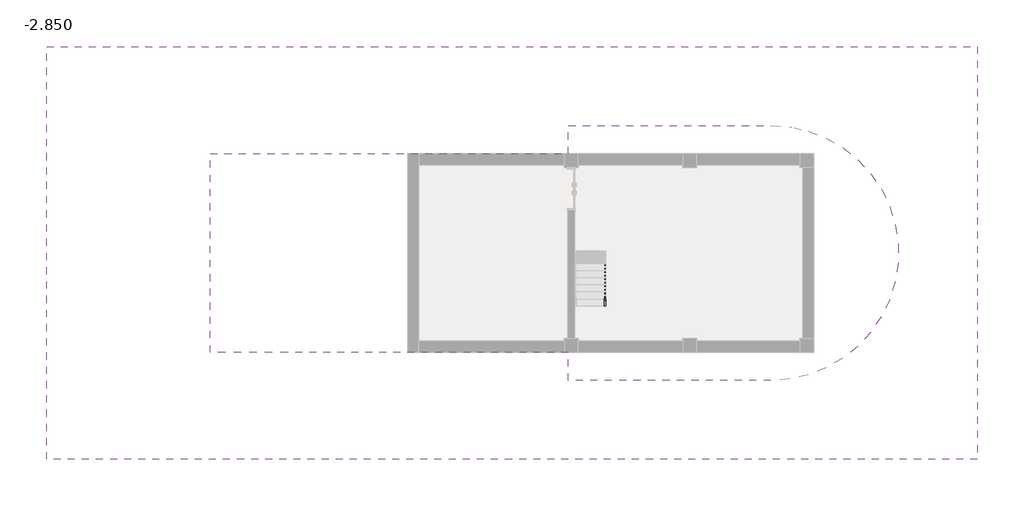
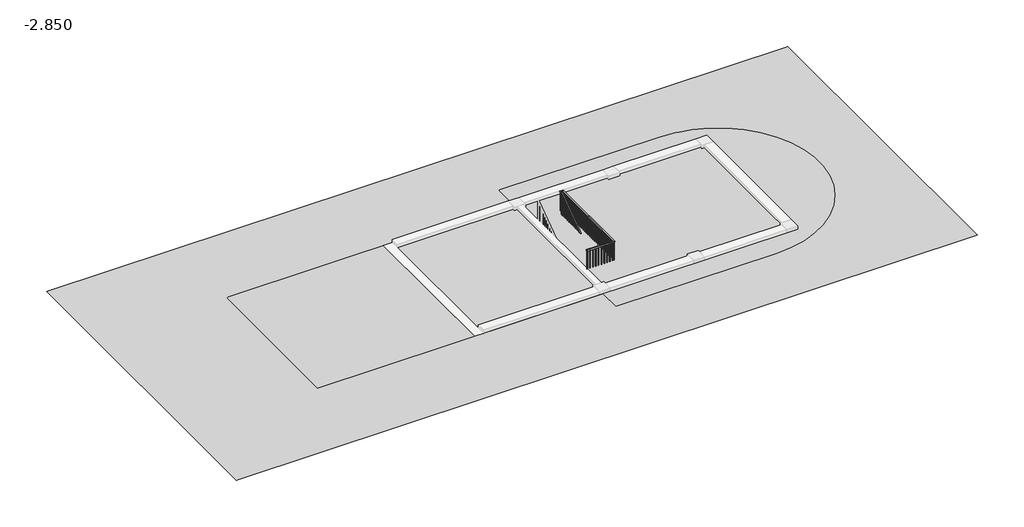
# One storey, part 2 of 2: 2 proxies, 2 railings.
"""IFC4 building model written with IfcOpenShell, lengths in millimetres."""

from ifc_helpers import new_model, si_unit, frame, origin, origin_with_axes, place, context, project, spatial, polyline, outline, extrude, faceted_brep, triangles, element, save

model = new_model("IFC4")

# Units and contexts
model_context = context("Model", 3, world=origin())
ifc_project = project(units=[si_unit("LENGTHUNIT", "METRE", prefix="MILLI")], contexts=[model_context])

# Site, building, storey
site = spatial("IfcSite", under=ifc_project)
building = spatial("IfcBuilding", under=site)
storey = spatial("IfcBuildingStorey", under=building, Name="-2.850", Elevation=-2850.0)

# Proxies
placement = place(None, origin())
element("IfcBuildingElementProxy", 1, Name="Building Element Proxy", at=placement, inside=storey, context=model_context, shape_type="Tessellation", body=[
    triangles([(-55025.7389648, -29780.700824, -150.0000011), (-55025.7389648, -44430.7019531, -150.0000011), (-22025.736969, -44430.7019531, -150.0000011), (-22025.736969, -29780.700824, -150.0000011), (-49225.739502, -33580.7014343, -150.0000011), (-36525.7379517, -33580.7014343, -150.0000011), (-36525.7379517, -32580.7020081, -150.0000011), (-29350.7386963, -32580.7020081, -150.0000011), (-28676.3217224, -32631.2431091, -150.0000011), (-28524.7030701, -32665.8479736, -150.0000011), (-28016.9712708, -32781.7339233, -150.0000011), (-27387.4143494, -33028.8165161, -150.0000011), (-26801.7152161, -33366.9702942, -150.0000011), (-26272.9567932, -33788.6422302, -150.0000011), (-25812.9499878, -34284.4096436, -150.0000011), (-25431.9732422, -34843.2011169, -150.0000011), (-25138.5330139, -35452.5336914, -150.0000011), (-24939.1893677, -36098.7942444, -150.0000011), (-24838.3908691, -36767.5487732, -150.0000011), (-24838.3908691, -37443.8563293, -150.0000011), (-24939.1893677, -38112.6085327, -150.0000011), (-25138.5330139, -38758.8690857, -150.0000011), (-25431.9732422, -39368.2016602, -150.0000011), (-25812.9499878, -39926.9908081, -150.0000011), (-26272.9567932, -40422.7605469, -150.0000011), (-26801.7152161, -40844.4324829, -150.0000011), (-27387.4143494, -41182.5839355, -150.0000011), (-28016.9712708, -41429.6665283, -150.0000011), (-28676.3217224, -41580.159668, -150.0000011), (-29350.7386963, -41630.700769, -150.0000011), (-36525.7379517, -41630.700769, -150.0000011), (-36525.7379517, -40630.7013428, -150.0000011), (-46466.0102783, -40630.7013428, -150.0000011), (-49225.739502, -40630.7013428, -150.0000011)], [[2, 31, 33], [30, 31, 3], [33, 34, 2], [33, 31, 32], [2, 34, 5], [3, 29, 30], [27, 28, 3], [29, 3, 28], [3, 31, 2], [7, 1, 5], [5, 1, 2], [5, 6, 7], [10, 11, 4], [4, 7, 8], [1, 7, 4], [10, 4, 9], [4, 8, 9], [25, 26, 3], [23, 24, 3], [25, 3, 24], [22, 3, 21], [3, 22, 23], [20, 21, 3], [3, 19, 20], [26, 27, 3], [14, 15, 4], [12, 13, 4], [14, 4, 13], [18, 19, 4], [16, 17, 4], [4, 17, 18], [16, 4, 15], [19, 3, 4], [12, 4, 11]], closed=False),
])
element("IfcBuildingElementProxy", 2, Name="Building Element Proxy", at=placement, inside=storey, context=model_context, shape_type="Tessellation", body=[
    triangles([(-49225.739502, -33580.7014343, -150.0000011), (-49225.739502, -40630.7013428, -150.0000011), (-46466.0102783, -40630.7013428, -150.0000011), (-36525.7379517, -40630.7013428, -150.0000011), (-36525.7379517, -41630.700769, -150.0000011), (-29350.7386963, -41630.700769, -150.0000011), (-28676.3217224, -41580.159668, -150.0000011), (-28016.9712708, -41429.6665283, -150.0000011), (-27387.4143494, -41182.5839355, -150.0000011), (-26801.7152161, -40844.4324829, -150.0000011), (-26272.9567932, -40422.7605469, -150.0000011), (-25812.9499878, -39926.9908081, -150.0000011), (-25431.9732422, -39368.2016602, -150.0000011), (-25138.5330139, -38758.8690857, -150.0000011), (-24939.1893677, -38112.6085327, -150.0000011), (-24838.3908691, -37443.8563293, -150.0000011), (-24838.3908691, -36767.5487732, -150.0000011), (-24939.1893677, -36098.7942444, -150.0000011), (-25138.5330139, -35452.5336914, -150.0000011), (-25431.9732422, -34843.2011169, -150.0000011), (-25812.9499878, -34284.4096436, -150.0000011), (-26272.9567932, -33788.6422302, -150.0000011), (-26801.7152161, -33366.9702942, -150.0000011), (-27387.4143494, -33028.8165161, -150.0000011), (-28016.9712708, -32781.7339233, -150.0000011), (-28524.7030701, -32665.8479736, -150.0000011), (-28676.3217224, -32631.2431091, -150.0000011), (-29350.7386963, -32580.7020081, -150.0000011), (-36525.7379517, -32580.7020081, -150.0000011), (-36525.7379517, -33580.7014343, -150.0000011)], [[2, 3, 1], [26, 6, 7], [7, 8, 26], [5, 6, 4], [26, 8, 9], [30, 1, 3], [29, 30, 28], [4, 6, 30], [30, 3, 4], [26, 28, 6], [27, 28, 26], [30, 6, 28], [24, 25, 26], [26, 9, 10], [11, 12, 26], [12, 13, 26], [15, 26, 14], [15, 16, 26], [26, 13, 14], [17, 26, 16], [22, 26, 21], [23, 26, 22], [24, 26, 23], [19, 26, 18], [26, 19, 20], [21, 26, 20], [26, 17, 18], [26, 10, 11]], closed=False),
])

# Railings
element("IfcRailing", 3, ObjectType="900mm", at=placement, inside=storey, context=model_context, shape_type="SolidModel", body=[
    faceted_brep([(-35251.1378629, -38980.7017086, -1771.875), (-35251.1378629, -38980.7017086, -1833.2683272), (-35201.1378629, -38980.7017086, -1833.2683272), (-35201.1378629, -38980.7017086, -1771.875), (-35251.1378629, -35230.7017086, 900.0), (-35251.1378629, -35214.7110739, 850.0), (-35201.1378629, -35214.7110739, 850.0), (-35201.1378629, -35230.7017086, 900.0), (-35251.1378629, -35120.3017086, 900.0), (-35251.1378629, -35120.3017086, 850.0), (-35201.1378629, -35170.3017086, 850.0), (-35201.1378629, -35170.3017086, 900.0), (-35090.3378629, -35120.3017086, 900.0), (-35090.3378629, -35120.3017086, 850.0), (-35140.3378629, -35170.3017086, 850.0), (-35140.3378629, -35170.3017086, 900.0), (-35090.3378629, -39091.1017086, 900.0), (-35090.3378629, -39091.1017086, 850.0), (-35140.3378629, -39041.1017086, 850.0), (-35140.3378629, -39041.1017086, 900.0), (-36325.7378629, -39091.1017086, 900.0), (-36325.7378629, -39041.1017086, 900.0), (-36325.7378629, -39041.1017086, 850.0), (-36325.7378629, -39091.1017086, 850.0)], [[[0, 1, 2, 3]], [[1, 0, 4, 5]], [[2, 1, 5, 6]], [[3, 2, 6, 7]], [[0, 3, 7, 4]], [[5, 4, 8, 9]], [[6, 5, 9, 10]], [[7, 6, 10, 11]], [[4, 7, 11, 8]], [[9, 8, 12, 13]], [[10, 9, 13, 14]], [[11, 10, 14, 15]], [[8, 11, 15, 12]], [[13, 12, 16, 17]], [[14, 13, 17, 18]], [[15, 14, 18, 19]], [[12, 15, 19, 16]], [[20, 21, 22, 23]], [[17, 16, 20, 23]], [[18, 17, 23, 22]], [[19, 18, 22, 21]], [[16, 19, 21, 20]]]),
    extrude(outline(polyline([(-36292.8378629, -39056.1017086), (-36292.8378629, -39076.1017086), (-36312.8378629, -39076.1017086), (-36312.8378629, -39056.1017086), (-36292.8378629, -39056.1017086)])), origin_with_axes(), (0.0, 0.0, 1.0), 850.0),
    extrude(outline(polyline([(-36167.8378629, -39056.1017086), (-36167.8378629, -39076.1017086), (-36187.8378629, -39076.1017086), (-36187.8378629, -39056.1017086), (-36167.8378629, -39056.1017086)])), origin_with_axes(), (0.0, 0.0, 1.0), 850.0),
    extrude(outline(polyline([(-36042.8378629, -39056.1017086), (-36042.8378629, -39076.1017086), (-36062.8378629, -39076.1017086), (-36062.8378629, -39056.1017086), (-36042.8378629, -39056.1017086)])), origin_with_axes(), (0.0, 0.0, 1.0), 850.0),
    extrude(outline(polyline([(-35917.8378629, -39056.1017086), (-35917.8378629, -39076.1017086), (-35937.8378629, -39076.1017086), (-35937.8378629, -39056.1017086), (-35917.8378629, -39056.1017086)])), origin_with_axes(), (0.0, 0.0, 1.0), 850.0),
    extrude(outline(polyline([(-35792.8378629, -39056.1017086), (-35792.8378629, -39076.1017086), (-35812.8378629, -39076.1017086), (-35812.8378629, -39056.1017086), (-35792.8378629, -39056.1017086)])), origin_with_axes(), (0.0, 0.0, 1.0), 850.0),
    extrude(outline(polyline([(-35667.8378629, -39056.1017086), (-35667.8378629, -39076.1017086), (-35687.8378629, -39076.1017086), (-35687.8378629, -39056.1017086), (-35667.8378629, -39056.1017086)])), origin_with_axes(), (0.0, 0.0, 1.0), 850.0),
    extrude(outline(polyline([(-35542.8378629, -39056.1017086), (-35542.8378629, -39076.1017086), (-35562.8378629, -39076.1017086), (-35562.8378629, -39056.1017086), (-35542.8378629, -39056.1017086)])), origin_with_axes(), (0.0, 0.0, 1.0), 850.0),
    extrude(outline(polyline([(-35417.8378629, -39056.1017086), (-35417.8378629, -39076.1017086), (-35437.8378629, -39076.1017086), (-35437.8378629, -39056.1017086), (-35417.8378629, -39056.1017086)])), origin_with_axes(), (0.0, 0.0, 1.0), 850.0),
    extrude(outline(polyline([(-35292.8378629, -39056.1017086), (-35292.8378629, -39076.1017086), (-35312.8378629, -39076.1017086), (-35312.8378629, -39056.1017086), (-35292.8378629, -39056.1017086)])), origin_with_axes(), (0.0, 0.0, 1.0), 850.0),
    extrude(outline(polyline([(-35167.8378629, -39056.1017086), (-35167.8378629, -39076.1017086), (-35187.8378629, -39076.1017086), (-35187.8378629, -39056.1017086), (-35167.8378629, -39056.1017086)])), origin_with_axes(), (0.0, 0.0, 1.0), 850.0),
    extrude(outline(polyline([(-35125.3378629, -39033.2017086), (-35105.3378629, -39033.2017086), (-35105.3378629, -39053.2017086), (-35125.3378629, -39053.2017086), (-35125.3378629, -39033.2017086)])), origin_with_axes(), (0.0, 0.0, 1.0), 850.0),
    extrude(outline(polyline([(-35125.3378629, -38947.8017086), (-35105.3378629, -38947.8017086), (-35105.3378629, -38967.8017086), (-35125.3378629, -38967.8017086), (-35125.3378629, -38947.8017086)])), origin_with_axes(), (0.0, 0.0, 1.0), 850.0),
    extrude(outline(polyline([(-35125.3378629, -38822.8017086), (-35105.3378629, -38822.8017086), (-35105.3378629, -38842.8017086), (-35125.3378629, -38842.8017086), (-35125.3378629, -38822.8017086)])), origin_with_axes(), (0.0, 0.0, 1.0), 850.0),
    extrude(outline(polyline([(-35125.3378629, -38697.8017086), (-35105.3378629, -38697.8017086), (-35105.3378629, -38717.8017086), (-35125.3378629, -38717.8017086), (-35125.3378629, -38697.8017086)])), origin_with_axes(), (0.0, 0.0, 1.0), 850.0),
    extrude(outline(polyline([(-35125.3378629, -38572.8017086), (-35105.3378629, -38572.8017086), (-35105.3378629, -38592.8017086), (-35125.3378629, -38592.8017086), (-35125.3378629, -38572.8017086)])), origin_with_axes(), (0.0, 0.0, 1.0), 850.0),
    extrude(outline(polyline([(-35125.3378629, -38447.8017086), (-35105.3378629, -38447.8017086), (-35105.3378629, -38467.8017086), (-35125.3378629, -38467.8017086), (-35125.3378629, -38447.8017086)])), origin_with_axes(), (0.0, 0.0, 1.0), 850.0),
    extrude(outline(polyline([(-35125.3378629, -38322.8017086), (-35105.3378629, -38322.8017086), (-35105.3378629, -38342.8017086), (-35125.3378629, -38342.8017086), (-35125.3378629, -38322.8017086)])), origin_with_axes(), (0.0, 0.0, 1.0), 850.0),
    extrude(outline(polyline([(-35125.3378629, -38197.8017086), (-35105.3378629, -38197.8017086), (-35105.3378629, -38217.8017086), (-35125.3378629, -38217.8017086), (-35125.3378629, -38197.8017086)])), origin_with_axes(), (0.0, 0.0, 1.0), 850.0),
    extrude(outline(polyline([(-35125.3378629, -38072.8017086), (-35105.3378629, -38072.8017086), (-35105.3378629, -38092.8017086), (-35125.3378629, -38092.8017086), (-35125.3378629, -38072.8017086)])), origin_with_axes(), (0.0, 0.0, 1.0), 850.0),
    extrude(outline(polyline([(-35125.3378629, -37947.8017086), (-35105.3378629, -37947.8017086), (-35105.3378629, -37967.8017086), (-35125.3378629, -37967.8017086), (-35125.3378629, -37947.8017086)])), origin_with_axes(), (0.0, 0.0, 1.0), 850.0),
    extrude(outline(polyline([(-35125.3378629, -37822.8017086), (-35105.3378629, -37822.8017086), (-35105.3378629, -37842.8017086), (-35125.3378629, -37842.8017086), (-35125.3378629, -37822.8017086)])), origin_with_axes(), (0.0, 0.0, 1.0), 850.0),
    extrude(outline(polyline([(-35125.3378629, -37697.8017086), (-35105.3378629, -37697.8017086), (-35105.3378629, -37717.8017086), (-35125.3378629, -37717.8017086), (-35125.3378629, -37697.8017086)])), origin_with_axes(), (0.0, 0.0, 1.0), 850.0),
    extrude(outline(polyline([(-35125.3378629, -37572.8017086), (-35105.3378629, -37572.8017086), (-35105.3378629, -37592.8017086), (-35125.3378629, -37592.8017086), (-35125.3378629, -37572.8017086)])), origin_with_axes(), (0.0, 0.0, 1.0), 850.0),
    extrude(outline(polyline([(-35125.3378629, -37447.8017086), (-35105.3378629, -37447.8017086), (-35105.3378629, -37467.8017086), (-35125.3378629, -37467.8017086), (-35125.3378629, -37447.8017086)])), origin_with_axes(), (0.0, 0.0, 1.0), 850.0),
    extrude(outline(polyline([(-35125.3378629, -37322.8017086), (-35105.3378629, -37322.8017086), (-35105.3378629, -37342.8017086), (-35125.3378629, -37342.8017086), (-35125.3378629, -37322.8017086)])), origin_with_axes(), (0.0, 0.0, 1.0), 850.0),
    extrude(outline(polyline([(-35125.3378629, -37197.8017086), (-35105.3378629, -37197.8017086), (-35105.3378629, -37217.8017086), (-35125.3378629, -37217.8017086), (-35125.3378629, -37197.8017086)])), origin_with_axes(), (0.0, 0.0, 1.0), 850.0),
    extrude(outline(polyline([(-35125.3378629, -37072.8017086), (-35105.3378629, -37072.8017086), (-35105.3378629, -37092.8017086), (-35125.3378629, -37092.8017086), (-35125.3378629, -37072.8017086)])), origin_with_axes(), (0.0, 0.0, 1.0), 850.0),
    extrude(outline(polyline([(-35125.3378629, -36947.8017086), (-35105.3378629, -36947.8017086), (-35105.3378629, -36967.8017086), (-35125.3378629, -36967.8017086), (-35125.3378629, -36947.8017086)])), origin_with_axes(), (0.0, 0.0, 1.0), 850.0),
    extrude(outline(polyline([(-35125.3378629, -36822.8017086), (-35105.3378629, -36822.8017086), (-35105.3378629, -36842.8017086), (-35125.3378629, -36842.8017086), (-35125.3378629, -36822.8017086)])), origin_with_axes(), (0.0, 0.0, 1.0), 850.0),
    extrude(outline(polyline([(-35125.3378629, -36697.8017086), (-35105.3378629, -36697.8017086), (-35105.3378629, -36717.8017086), (-35125.3378629, -36717.8017086), (-35125.3378629, -36697.8017086)])), origin_with_axes(), (0.0, 0.0, 1.0), 850.0),
    extrude(outline(polyline([(-35125.3378629, -36572.8017086), (-35105.3378629, -36572.8017086), (-35105.3378629, -36592.8017086), (-35125.3378629, -36592.8017086), (-35125.3378629, -36572.8017086)])), origin_with_axes(), (0.0, 0.0, 1.0), 850.0),
    extrude(outline(polyline([(-35125.3378629, -36447.8017086), (-35105.3378629, -36447.8017086), (-35105.3378629, -36467.8017086), (-35125.3378629, -36467.8017086), (-35125.3378629, -36447.8017086)])), origin_with_axes(), (0.0, 0.0, 1.0), 850.0),
    extrude(outline(polyline([(-35125.3378629, -36322.8017086), (-35105.3378629, -36322.8017086), (-35105.3378629, -36342.8017086), (-35125.3378629, -36342.8017086), (-35125.3378629, -36322.8017086)])), origin_with_axes(), (0.0, 0.0, 1.0), 850.0),
    extrude(outline(polyline([(-35125.3378629, -36197.8017086), (-35105.3378629, -36197.8017086), (-35105.3378629, -36217.8017086), (-35125.3378629, -36217.8017086), (-35125.3378629, -36197.8017086)])), origin_with_axes(), (0.0, 0.0, 1.0), 850.0),
    extrude(outline(polyline([(-35125.3378629, -36072.8017086), (-35105.3378629, -36072.8017086), (-35105.3378629, -36092.8017086), (-35125.3378629, -36092.8017086), (-35125.3378629, -36072.8017086)])), origin_with_axes(), (0.0, 0.0, 1.0), 850.0),
    extrude(outline(polyline([(-35125.3378629, -35947.8017086), (-35105.3378629, -35947.8017086), (-35105.3378629, -35967.8017086), (-35125.3378629, -35967.8017086), (-35125.3378629, -35947.8017086)])), origin_with_axes(), (0.0, 0.0, 1.0), 850.0),
    extrude(outline(polyline([(-35125.3378629, -35822.8017086), (-35105.3378629, -35822.8017086), (-35105.3378629, -35842.8017086), (-35125.3378629, -35842.8017086), (-35125.3378629, -35822.8017086)])), origin_with_axes(), (0.0, 0.0, 1.0), 850.0),
    extrude(outline(polyline([(-35125.3378629, -35697.8017086), (-35105.3378629, -35697.8017086), (-35105.3378629, -35717.8017086), (-35125.3378629, -35717.8017086), (-35125.3378629, -35697.8017086)])), origin_with_axes(), (0.0, 0.0, 1.0), 850.0),
    extrude(outline(polyline([(-35125.3378629, -35572.8017086), (-35105.3378629, -35572.8017086), (-35105.3378629, -35592.8017086), (-35125.3378629, -35592.8017086), (-35125.3378629, -35572.8017086)])), origin_with_axes(), (0.0, 0.0, 1.0), 850.0),
    extrude(outline(polyline([(-35125.3378629, -35447.8017086), (-35105.3378629, -35447.8017086), (-35105.3378629, -35467.8017086), (-35125.3378629, -35467.8017086), (-35125.3378629, -35447.8017086)])), origin_with_axes(), (0.0, 0.0, 1.0), 850.0),
    extrude(outline(polyline([(-35125.3378629, -35322.8017086), (-35105.3378629, -35322.8017086), (-35105.3378629, -35342.8017086), (-35125.3378629, -35342.8017086), (-35125.3378629, -35322.8017086)])), origin_with_axes(), (0.0, 0.0, 1.0), 850.0),
    extrude(outline(polyline([(-35125.3378629, -35197.8017086), (-35105.3378629, -35197.8017086), (-35105.3378629, -35217.8017086), (-35125.3378629, -35217.8017086), (-35125.3378629, -35197.8017086)])), origin_with_axes(), (0.0, 0.0, 1.0), 850.0),
    extrude(outline(polyline([(-35173.6378629, -35155.3017086), (-35173.6378629, -35135.3017086), (-35153.6378629, -35135.3017086), (-35153.6378629, -35155.3017086), (-35173.6378629, -35155.3017086)])), origin_with_axes(), (0.0, 0.0, 1.0), 850.0),
    extrude(outline(polyline([(-35216.1378629, -35178.2017086), (-35236.1378629, -35178.2017086), (-35236.1378629, -35158.2017086), (-35216.1378629, -35158.2017086), (-35216.1378629, -35178.2017086)])), origin_with_axes(), (0.0, 0.0, 1.0), 850.0),
    extrude(outline(polyline([(-35303.2017086, -178.125), (-35303.2017086, 786.9504228), (-35283.2017086, 801.2004228), (-35283.2017086, -178.125), (-35303.2017086, -178.125)])), frame((-35236.1378629, 0.0, 0.0), z_axis=(1.0, 0.0, 0.0), x_axis=(0.0, 1.0, 0.0)), (0.0, 0.0, 1.0), 20.0),
    extrude(outline(polyline([(-35428.2017086, -178.125), (-35428.2017086, 697.8879228), (-35408.2017086, 712.1379228), (-35408.2017086, -178.125), (-35428.2017086, -178.125)])), frame((-35236.1378629, 0.0, 0.0), z_axis=(1.0, 0.0, 0.0), x_axis=(0.0, 1.0, 0.0)), (0.0, 0.0, 1.0), 20.0),
    extrude(outline(polyline([(-35553.2017086, -356.25), (-35553.2017086, 608.8254228), (-35533.2017086, 623.0754228), (-35533.2017086, -356.25), (-35553.2017086, -356.25)])), frame((-35236.1378629, 0.0, 0.0), z_axis=(1.0, 0.0, 0.0), x_axis=(0.0, 1.0, 0.0)), (0.0, 0.0, 1.0), 20.0),
    extrude(outline(polyline([(-35678.2017086, -356.25), (-35678.2017086, 519.7629228), (-35658.2017086, 534.0129228), (-35658.2017086, -356.25), (-35678.2017086, -356.25)])), frame((-35236.1378629, 0.0, 0.0), z_axis=(1.0, 0.0, 0.0), x_axis=(0.0, 1.0, 0.0)), (0.0, 0.0, 1.0), 20.0),
    extrude(outline(polyline([(-35803.2017086, -534.375), (-35803.2017086, 430.7004228), (-35783.2017086, 444.9504228), (-35783.2017086, -534.375), (-35803.2017086, -534.375)])), frame((-35236.1378629, 0.0, 0.0), z_axis=(1.0, 0.0, 0.0), x_axis=(0.0, 1.0, 0.0)), (0.0, 0.0, 1.0), 20.0),
    extrude(outline(polyline([(-35928.2017086, -534.375), (-35928.2017086, 341.6379228), (-35908.2017086, 355.8879228), (-35908.2017086, -534.375), (-35928.2017086, -534.375)])), frame((-35236.1378629, 0.0, 0.0), z_axis=(1.0, 0.0, 0.0), x_axis=(0.0, 1.0, 0.0)), (0.0, 0.0, 1.0), 20.0),
    extrude(outline(polyline([(-36053.2017086, -712.5), (-36053.2017086, 252.5754228), (-36033.2017086, 266.8254228), (-36033.2017086, -712.5), (-36053.2017086, -712.5)])), frame((-35236.1378629, 0.0, 0.0), z_axis=(1.0, 0.0, 0.0), x_axis=(0.0, 1.0, 0.0)), (0.0, 0.0, 1.0), 20.0),
    extrude(outline(polyline([(-36178.2017086, -712.5), (-36178.2017086, 163.5129228), (-36158.2017086, 177.7629228), (-36158.2017086, -712.5), (-36178.2017086, -712.5)])), frame((-35236.1378629, 0.0, 0.0), z_axis=(1.0, 0.0, 0.0), x_axis=(0.0, 1.0, 0.0)), (0.0, 0.0, 1.0), 20.0),
    extrude(outline(polyline([(-36303.2017086, -890.625), (-36303.2017086, 74.4504228), (-36283.2017086, 88.7004228), (-36283.2017086, -890.625), (-36303.2017086, -890.625)])), frame((-35236.1378629, 0.0, 0.0), z_axis=(1.0, 0.0, 0.0), x_axis=(0.0, 1.0, 0.0)), (0.0, 0.0, 1.0), 20.0),
    extrude(outline(polyline([(-36428.2017086, -890.625), (-36428.2017086, -14.6120772), (-36408.2017086, -0.3620772), (-36408.2017086, -890.625), (-36428.2017086, -890.625)])), frame((-35236.1378629, 0.0, 0.0), z_axis=(1.0, 0.0, 0.0), x_axis=(0.0, 1.0, 0.0)), (0.0, 0.0, 1.0), 20.0),
    extrude(outline(polyline([(-36553.2017086, -1068.75), (-36553.2017086, -103.6745772), (-36533.2017086, -89.4245772), (-36533.2017086, -1068.75), (-36553.2017086, -1068.75)])), frame((-35236.1378629, 0.0, 0.0), z_axis=(1.0, 0.0, 0.0), x_axis=(0.0, 1.0, 0.0)), (0.0, 0.0, 1.0), 20.0),
    extrude(outline(polyline([(-36678.2017086, -1068.75), (-36678.2017086, -192.7370772), (-36658.2017086, -178.4870772), (-36658.2017086, -1068.75), (-36678.2017086, -1068.75)])), frame((-35236.1378629, 0.0, 0.0), z_axis=(1.0, 0.0, 0.0), x_axis=(0.0, 1.0, 0.0)), (0.0, 0.0, 1.0), 20.0),
    extrude(outline(polyline([(-36803.2017086, -1246.875), (-36803.2017086, -281.7995772), (-36783.2017086, -267.5495772), (-36783.2017086, -1246.875), (-36803.2017086, -1246.875)])), frame((-35236.1378629, 0.0, 0.0), z_axis=(1.0, 0.0, 0.0), x_axis=(0.0, 1.0, 0.0)), (0.0, 0.0, 1.0), 20.0),
    extrude(outline(polyline([(-36928.2017086, -1246.875), (-36928.2017086, -370.8620772), (-36908.2017086, -356.6120772), (-36908.2017086, -1246.875), (-36928.2017086, -1246.875)])), frame((-35236.1378629, 0.0, 0.0), z_axis=(1.0, 0.0, 0.0), x_axis=(0.0, 1.0, 0.0)), (0.0, 0.0, 1.0), 20.0),
    extrude(outline(polyline([(-37053.2017086, -1425.0), (-37053.2017086, -459.9245772), (-37033.2017086, -445.6745772), (-37033.2017086, -1425.0), (-37053.2017086, -1425.0)])), frame((-35236.1378629, 0.0, 0.0), z_axis=(1.0, 0.0, 0.0), x_axis=(0.0, 1.0, 0.0)), (0.0, 0.0, 1.0), 20.0),
    extrude(outline(polyline([(-37178.2017086, -1425.0), (-37178.2017086, -548.9870772), (-37158.2017086, -534.7370772), (-37158.2017086, -1425.0), (-37178.2017086, -1425.0)])), frame((-35236.1378629, 0.0, 0.0), z_axis=(1.0, 0.0, 0.0), x_axis=(0.0, 1.0, 0.0)), (0.0, 0.0, 1.0), 20.0),
    extrude(outline(polyline([(-37303.2017086, -1603.125), (-37303.2017086, -638.0495772), (-37283.2017086, -623.7995772), (-37283.2017086, -1603.125), (-37303.2017086, -1603.125)])), frame((-35236.1378629, 0.0, 0.0), z_axis=(1.0, 0.0, 0.0), x_axis=(0.0, 1.0, 0.0)), (0.0, 0.0, 1.0), 20.0),
    extrude(outline(polyline([(-37428.2017086, -1603.125), (-37428.2017086, -727.1120772), (-37408.2017086, -712.8620772), (-37408.2017086, -1603.125), (-37428.2017086, -1603.125)])), frame((-35236.1378629, 0.0, 0.0), z_axis=(1.0, 0.0, 0.0), x_axis=(0.0, 1.0, 0.0)), (0.0, 0.0, 1.0), 20.0),
    extrude(outline(polyline([(-37553.2017086, -1781.25), (-37553.2017086, -816.1745772), (-37533.2017086, -801.9245772), (-37533.2017086, -1781.25), (-37553.2017086, -1781.25)])), frame((-35236.1378629, 0.0, 0.0), z_axis=(1.0, 0.0, 0.0), x_axis=(0.0, 1.0, 0.0)), (0.0, 0.0, 1.0), 20.0),
    extrude(outline(polyline([(-37678.2017086, -1781.25), (-37678.2017086, -905.2370772), (-37658.2017086, -890.9870772), (-37658.2017086, -1781.25), (-37678.2017086, -1781.25)])), frame((-35236.1378629, 0.0, 0.0), z_axis=(1.0, 0.0, 0.0), x_axis=(0.0, 1.0, 0.0)), (0.0, 0.0, 1.0), 20.0),
    extrude(outline(polyline([(-37803.2017086, -1959.375), (-37803.2017086, -994.2995772), (-37783.2017086, -980.0495772), (-37783.2017086, -1959.375), (-37803.2017086, -1959.375)])), frame((-35236.1378629, 0.0, 0.0), z_axis=(1.0, 0.0, 0.0), x_axis=(0.0, 1.0, 0.0)), (0.0, 0.0, 1.0), 20.0),
    extrude(outline(polyline([(-37928.2017086, -1959.375), (-37928.2017086, -1083.3620772), (-37908.2017086, -1069.1120772), (-37908.2017086, -1959.375), (-37928.2017086, -1959.375)])), frame((-35236.1378629, 0.0, 0.0), z_axis=(1.0, 0.0, 0.0), x_axis=(0.0, 1.0, 0.0)), (0.0, 0.0, 1.0), 20.0),
    extrude(outline(polyline([(-38053.2017086, -2137.5), (-38053.2017086, -1172.4245772), (-38033.2017086, -1158.1745772), (-38033.2017086, -2137.5), (-38053.2017086, -2137.5)])), frame((-35236.1378629, 0.0, 0.0), z_axis=(1.0, 0.0, 0.0), x_axis=(0.0, 1.0, 0.0)), (0.0, 0.0, 1.0), 20.0),
    extrude(outline(polyline([(-38178.2017086, -2137.5), (-38178.2017086, -1261.4870772), (-38158.2017086, -1247.2370772), (-38158.2017086, -2137.5), (-38178.2017086, -2137.5)])), frame((-35236.1378629, 0.0, 0.0), z_axis=(1.0, 0.0, 0.0), x_axis=(0.0, 1.0, 0.0)), (0.0, 0.0, 1.0), 20.0),
    extrude(outline(polyline([(-38303.2017086, -2315.625), (-38303.2017086, -1350.5495772), (-38283.2017086, -1336.2995772), (-38283.2017086, -2315.625), (-38303.2017086, -2315.625)])), frame((-35236.1378629, 0.0, 0.0), z_axis=(1.0, 0.0, 0.0), x_axis=(0.0, 1.0, 0.0)), (0.0, 0.0, 1.0), 20.0),
    extrude(outline(polyline([(-38428.2017086, -2315.625), (-38428.2017086, -1439.6120772), (-38408.2017086, -1425.3620772), (-38408.2017086, -2315.625), (-38428.2017086, -2315.625)])), frame((-35236.1378629, 0.0, 0.0), z_axis=(1.0, 0.0, 0.0), x_axis=(0.0, 1.0, 0.0)), (0.0, 0.0, 1.0), 20.0),
    extrude(outline(polyline([(-38553.2017086, -2493.75), (-38553.2017086, -1528.6745772), (-38533.2017086, -1514.4245772), (-38533.2017086, -2493.75), (-38553.2017086, -2493.75)])), frame((-35236.1378629, 0.0, 0.0), z_axis=(1.0, 0.0, 0.0), x_axis=(0.0, 1.0, 0.0)), (0.0, 0.0, 1.0), 20.0),
    extrude(outline(polyline([(-38678.2017086, -2493.75), (-38678.2017086, -1617.7370772), (-38658.2017086, -1603.4870772), (-38658.2017086, -2493.75), (-38678.2017086, -2493.75)])), frame((-35236.1378629, 0.0, 0.0), z_axis=(1.0, 0.0, 0.0), x_axis=(0.0, 1.0, 0.0)), (0.0, 0.0, 1.0), 20.0),
    extrude(outline(polyline([(-38803.2017086, -2671.875), (-38803.2017086, -1706.7995772), (-38783.2017086, -1692.5495772), (-38783.2017086, -2671.875), (-38803.2017086, -2671.875)])), frame((-35236.1378629, 0.0, 0.0), z_axis=(1.0, 0.0, 0.0), x_axis=(0.0, 1.0, 0.0)), (0.0, 0.0, 1.0), 20.0),
    extrude(outline(polyline([(-38928.2017086, -2671.875), (-38928.2017086, -1795.8620772), (-38908.2017086, -1781.6120772), (-38908.2017086, -2671.875), (-38928.2017086, -2671.875)])), frame((-35236.1378629, 0.0, 0.0), z_axis=(1.0, 0.0, 0.0), x_axis=(0.0, 1.0, 0.0)), (0.0, 0.0, 1.0), 20.0),
    extrude(outline(polyline([(-35125.3378629, -39056.1017086), (-35105.3378629, -39056.1017086), (-35105.3378629, -39076.1017086), (-35125.3378629, -39076.1017086), (-35125.3378629, -39056.1017086)])), origin_with_axes(), (0.0, 0.0, 1.0), 850.0),
    extrude(outline(polyline([(-35125.3378629, -38970.7017086), (-35105.3378629, -38970.7017086), (-35105.3378629, -38990.7017086), (-35125.3378629, -38990.7017086), (-35125.3378629, -38970.7017086)])), origin_with_axes(), (0.0, 0.0, 1.0), 850.0),
    extrude(outline(polyline([(-35125.3378629, -35155.3017086), (-35125.3378629, -35135.3017086), (-35105.3378629, -35135.3017086), (-35105.3378629, -35155.3017086), (-35125.3378629, -35155.3017086)])), origin_with_axes(), (0.0, 0.0, 1.0), 850.0),
    extrude(outline(polyline([(-35216.1378629, -35155.3017086), (-35236.1378629, -35155.3017086), (-35236.1378629, -35135.3017086), (-35216.1378629, -35135.3017086), (-35216.1378629, -35155.3017086)])), origin_with_axes(), (0.0, 0.0, 1.0), 850.0),
    extrude(outline(polyline([(-35240.7017086, -178.125), (-35240.7017086, 831.4816728), (-35220.7017086, 845.7316728), (-35220.7017086, -178.125), (-35240.7017086, -178.125)])), frame((-35236.1378629, 0.0, 0.0), z_axis=(1.0, 0.0, 0.0), x_axis=(0.0, 1.0, 0.0)), (0.0, 0.0, 1.0), 20.0),
    extrude(outline(polyline([(-36305.7378629, -39056.1017086), (-36305.7378629, -39076.1017086), (-36325.7378629, -39076.1017086), (-36325.7378629, -39056.1017086), (-36305.7378629, -39056.1017086)])), origin_with_axes(), (0.0, 0.0, 1.0), 850.0),
    extrude(outline(polyline([(-38980.7017086, -2671.875), (-38980.7017086, -1833.2683272), (-38960.7017086, -1819.0183272), (-38960.7017086, -2671.875), (-38980.7017086, -2671.875)])), frame((-35236.1378629, 0.0, 0.0), z_axis=(1.0, 0.0, 0.0), x_axis=(0.0, 1.0, 0.0)), (0.0, 0.0, 1.0), 20.0),
])
element("IfcRailing", 4, ObjectType="900mm", at=placement, inside=storey, context=model_context, shape_type="SweptSolid", body=[
    extrude(outline(polyline([(-38980.7017086, -1833.2683272), (-38980.7017086, -1771.875), (-35230.7017086, 900.0), (-35230.7017086, 838.6066728), (-38980.7017086, -1833.2683272)])), frame((-35251.1378629, 0.0, 0.0), z_axis=(1.0, 0.0, 0.0), x_axis=(0.0, 1.0, 0.0)), (0.0, 0.0, 1.0), 50.0),
    extrude(outline(polyline([(-35303.2017086, -178.125), (-35303.2017086, 786.9504228), (-35283.2017086, 801.2004228), (-35283.2017086, -178.125), (-35303.2017086, -178.125)])), frame((-35236.1378629, 0.0, 0.0), z_axis=(1.0, 0.0, 0.0), x_axis=(0.0, 1.0, 0.0)), (0.0, 0.0, 1.0), 20.0),
    extrude(outline(polyline([(-35428.2017086, -178.125), (-35428.2017086, 697.8879228), (-35408.2017086, 712.1379228), (-35408.2017086, -178.125), (-35428.2017086, -178.125)])), frame((-35236.1378629, 0.0, 0.0), z_axis=(1.0, 0.0, 0.0), x_axis=(0.0, 1.0, 0.0)), (0.0, 0.0, 1.0), 20.0),
    extrude(outline(polyline([(-35553.2017086, -356.25), (-35553.2017086, 608.8254228), (-35533.2017086, 623.0754228), (-35533.2017086, -356.25), (-35553.2017086, -356.25)])), frame((-35236.1378629, 0.0, 0.0), z_axis=(1.0, 0.0, 0.0), x_axis=(0.0, 1.0, 0.0)), (0.0, 0.0, 1.0), 20.0),
    extrude(outline(polyline([(-35678.2017086, -356.25), (-35678.2017086, 519.7629228), (-35658.2017086, 534.0129228), (-35658.2017086, -356.25), (-35678.2017086, -356.25)])), frame((-35236.1378629, 0.0, 0.0), z_axis=(1.0, 0.0, 0.0), x_axis=(0.0, 1.0, 0.0)), (0.0, 0.0, 1.0), 20.0),
    extrude(outline(polyline([(-35803.2017086, -534.375), (-35803.2017086, 430.7004228), (-35783.2017086, 444.9504228), (-35783.2017086, -534.375), (-35803.2017086, -534.375)])), frame((-35236.1378629, 0.0, 0.0), z_axis=(1.0, 0.0, 0.0), x_axis=(0.0, 1.0, 0.0)), (0.0, 0.0, 1.0), 20.0),
    extrude(outline(polyline([(-35928.2017086, -534.375), (-35928.2017086, 341.6379228), (-35908.2017086, 355.8879228), (-35908.2017086, -534.375), (-35928.2017086, -534.375)])), frame((-35236.1378629, 0.0, 0.0), z_axis=(1.0, 0.0, 0.0), x_axis=(0.0, 1.0, 0.0)), (0.0, 0.0, 1.0), 20.0),
    extrude(outline(polyline([(-36053.2017086, -712.5), (-36053.2017086, 252.5754228), (-36033.2017086, 266.8254228), (-36033.2017086, -712.5), (-36053.2017086, -712.5)])), frame((-35236.1378629, 0.0, 0.0), z_axis=(1.0, 0.0, 0.0), x_axis=(0.0, 1.0, 0.0)), (0.0, 0.0, 1.0), 20.0),
    extrude(outline(polyline([(-36178.2017086, -712.5), (-36178.2017086, 163.5129228), (-36158.2017086, 177.7629228), (-36158.2017086, -712.5), (-36178.2017086, -712.5)])), frame((-35236.1378629, 0.0, 0.0), z_axis=(1.0, 0.0, 0.0), x_axis=(0.0, 1.0, 0.0)), (0.0, 0.0, 1.0), 20.0),
    extrude(outline(polyline([(-36303.2017086, -890.625), (-36303.2017086, 74.4504228), (-36283.2017086, 88.7004228), (-36283.2017086, -890.625), (-36303.2017086, -890.625)])), frame((-35236.1378629, 0.0, 0.0), z_axis=(1.0, 0.0, 0.0), x_axis=(0.0, 1.0, 0.0)), (0.0, 0.0, 1.0), 20.0),
    extrude(outline(polyline([(-36428.2017086, -890.625), (-36428.2017086, -14.6120772), (-36408.2017086, -0.3620772), (-36408.2017086, -890.625), (-36428.2017086, -890.625)])), frame((-35236.1378629, 0.0, 0.0), z_axis=(1.0, 0.0, 0.0), x_axis=(0.0, 1.0, 0.0)), (0.0, 0.0, 1.0), 20.0),
    extrude(outline(polyline([(-36553.2017086, -1068.75), (-36553.2017086, -103.6745772), (-36533.2017086, -89.4245772), (-36533.2017086, -1068.75), (-36553.2017086, -1068.75)])), frame((-35236.1378629, 0.0, 0.0), z_axis=(1.0, 0.0, 0.0), x_axis=(0.0, 1.0, 0.0)), (0.0, 0.0, 1.0), 20.0),
    extrude(outline(polyline([(-36678.2017086, -1068.75), (-36678.2017086, -192.7370772), (-36658.2017086, -178.4870772), (-36658.2017086, -1068.75), (-36678.2017086, -1068.75)])), frame((-35236.1378629, 0.0, 0.0), z_axis=(1.0, 0.0, 0.0), x_axis=(0.0, 1.0, 0.0)), (0.0, 0.0, 1.0), 20.0),
    extrude(outline(polyline([(-36803.2017086, -1246.875), (-36803.2017086, -281.7995772), (-36783.2017086, -267.5495772), (-36783.2017086, -1246.875), (-36803.2017086, -1246.875)])), frame((-35236.1378629, 0.0, 0.0), z_axis=(1.0, 0.0, 0.0), x_axis=(0.0, 1.0, 0.0)), (0.0, 0.0, 1.0), 20.0),
    extrude(outline(polyline([(-36928.2017086, -1246.875), (-36928.2017086, -370.8620772), (-36908.2017086, -356.6120772), (-36908.2017086, -1246.875), (-36928.2017086, -1246.875)])), frame((-35236.1378629, 0.0, 0.0), z_axis=(1.0, 0.0, 0.0), x_axis=(0.0, 1.0, 0.0)), (0.0, 0.0, 1.0), 20.0),
    extrude(outline(polyline([(-37053.2017086, -1425.0), (-37053.2017086, -459.9245772), (-37033.2017086, -445.6745772), (-37033.2017086, -1425.0), (-37053.2017086, -1425.0)])), frame((-35236.1378629, 0.0, 0.0), z_axis=(1.0, 0.0, 0.0), x_axis=(0.0, 1.0, 0.0)), (0.0, 0.0, 1.0), 20.0),
    extrude(outline(polyline([(-37178.2017086, -1425.0), (-37178.2017086, -548.9870772), (-37158.2017086, -534.7370772), (-37158.2017086, -1425.0), (-37178.2017086, -1425.0)])), frame((-35236.1378629, 0.0, 0.0), z_axis=(1.0, 0.0, 0.0), x_axis=(0.0, 1.0, 0.0)), (0.0, 0.0, 1.0), 20.0),
    extrude(outline(polyline([(-37303.2017086, -1603.125), (-37303.2017086, -638.0495772), (-37283.2017086, -623.7995772), (-37283.2017086, -1603.125), (-37303.2017086, -1603.125)])), frame((-35236.1378629, 0.0, 0.0), z_axis=(1.0, 0.0, 0.0), x_axis=(0.0, 1.0, 0.0)), (0.0, 0.0, 1.0), 20.0),
    extrude(outline(polyline([(-37428.2017086, -1603.125), (-37428.2017086, -727.1120772), (-37408.2017086, -712.8620772), (-37408.2017086, -1603.125), (-37428.2017086, -1603.125)])), frame((-35236.1378629, 0.0, 0.0), z_axis=(1.0, 0.0, 0.0), x_axis=(0.0, 1.0, 0.0)), (0.0, 0.0, 1.0), 20.0),
    extrude(outline(polyline([(-37553.2017086, -1781.25), (-37553.2017086, -816.1745772), (-37533.2017086, -801.9245772), (-37533.2017086, -1781.25), (-37553.2017086, -1781.25)])), frame((-35236.1378629, 0.0, 0.0), z_axis=(1.0, 0.0, 0.0), x_axis=(0.0, 1.0, 0.0)), (0.0, 0.0, 1.0), 20.0),
    extrude(outline(polyline([(-37678.2017086, -1781.25), (-37678.2017086, -905.2370772), (-37658.2017086, -890.9870772), (-37658.2017086, -1781.25), (-37678.2017086, -1781.25)])), frame((-35236.1378629, 0.0, 0.0), z_axis=(1.0, 0.0, 0.0), x_axis=(0.0, 1.0, 0.0)), (0.0, 0.0, 1.0), 20.0),
    extrude(outline(polyline([(-37803.2017086, -1959.375), (-37803.2017086, -994.2995772), (-37783.2017086, -980.0495772), (-37783.2017086, -1959.375), (-37803.2017086, -1959.375)])), frame((-35236.1378629, 0.0, 0.0), z_axis=(1.0, 0.0, 0.0), x_axis=(0.0, 1.0, 0.0)), (0.0, 0.0, 1.0), 20.0),
    extrude(outline(polyline([(-37928.2017086, -1959.375), (-37928.2017086, -1083.3620772), (-37908.2017086, -1069.1120772), (-37908.2017086, -1959.375), (-37928.2017086, -1959.375)])), frame((-35236.1378629, 0.0, 0.0), z_axis=(1.0, 0.0, 0.0), x_axis=(0.0, 1.0, 0.0)), (0.0, 0.0, 1.0), 20.0),
    extrude(outline(polyline([(-38053.2017086, -2137.5), (-38053.2017086, -1172.4245772), (-38033.2017086, -1158.1745772), (-38033.2017086, -2137.5), (-38053.2017086, -2137.5)])), frame((-35236.1378629, 0.0, 0.0), z_axis=(1.0, 0.0, 0.0), x_axis=(0.0, 1.0, 0.0)), (0.0, 0.0, 1.0), 20.0),
    extrude(outline(polyline([(-38178.2017086, -2137.5), (-38178.2017086, -1261.4870772), (-38158.2017086, -1247.2370772), (-38158.2017086, -2137.5), (-38178.2017086, -2137.5)])), frame((-35236.1378629, 0.0, 0.0), z_axis=(1.0, 0.0, 0.0), x_axis=(0.0, 1.0, 0.0)), (0.0, 0.0, 1.0), 20.0),
    extrude(outline(polyline([(-38303.2017086, -2315.625), (-38303.2017086, -1350.5495772), (-38283.2017086, -1336.2995772), (-38283.2017086, -2315.625), (-38303.2017086, -2315.625)])), frame((-35236.1378629, 0.0, 0.0), z_axis=(1.0, 0.0, 0.0), x_axis=(0.0, 1.0, 0.0)), (0.0, 0.0, 1.0), 20.0),
    extrude(outline(polyline([(-38428.2017086, -2315.625), (-38428.2017086, -1439.6120772), (-38408.2017086, -1425.3620772), (-38408.2017086, -2315.625), (-38428.2017086, -2315.625)])), frame((-35236.1378629, 0.0, 0.0), z_axis=(1.0, 0.0, 0.0), x_axis=(0.0, 1.0, 0.0)), (0.0, 0.0, 1.0), 20.0),
    extrude(outline(polyline([(-38553.2017086, -2493.75), (-38553.2017086, -1528.6745772), (-38533.2017086, -1514.4245772), (-38533.2017086, -2493.75), (-38553.2017086, -2493.75)])), frame((-35236.1378629, 0.0, 0.0), z_axis=(1.0, 0.0, 0.0), x_axis=(0.0, 1.0, 0.0)), (0.0, 0.0, 1.0), 20.0),
    extrude(outline(polyline([(-38678.2017086, -2493.75), (-38678.2017086, -1617.7370772), (-38658.2017086, -1603.4870772), (-38658.2017086, -2493.75), (-38678.2017086, -2493.75)])), frame((-35236.1378629, 0.0, 0.0), z_axis=(1.0, 0.0, 0.0), x_axis=(0.0, 1.0, 0.0)), (0.0, 0.0, 1.0), 20.0),
    extrude(outline(polyline([(-38803.2017086, -2671.875), (-38803.2017086, -1706.7995772), (-38783.2017086, -1692.5495772), (-38783.2017086, -2671.875), (-38803.2017086, -2671.875)])), frame((-35236.1378629, 0.0, 0.0), z_axis=(1.0, 0.0, 0.0), x_axis=(0.0, 1.0, 0.0)), (0.0, 0.0, 1.0), 20.0),
    extrude(outline(polyline([(-38928.2017086, -2671.875), (-38928.2017086, -1795.8620772), (-38908.2017086, -1781.6120772), (-38908.2017086, -2671.875), (-38928.2017086, -2671.875)])), frame((-35236.1378629, 0.0, 0.0), z_axis=(1.0, 0.0, 0.0), x_axis=(0.0, 1.0, 0.0)), (0.0, 0.0, 1.0), 20.0),
    extrude(outline(polyline([(-35250.7017086, -178.125), (-35250.7017086, 824.3566728), (-35230.7017086, 838.6066728), (-35230.7017086, -178.125), (-35250.7017086, -178.125)])), frame((-35236.1378629, 0.0, 0.0), z_axis=(1.0, 0.0, 0.0), x_axis=(0.0, 1.0, 0.0)), (0.0, 0.0, 1.0), 20.0),
    extrude(outline(polyline([(-38980.7017086, -2671.875), (-38980.7017086, -1833.2683272), (-38960.7017086, -1819.0183272), (-38960.7017086, -2671.875), (-38980.7017086, -2671.875)])), frame((-35236.1378629, 0.0, 0.0), z_axis=(1.0, 0.0, 0.0), x_axis=(0.0, 1.0, 0.0)), (0.0, 0.0, 1.0), 20.0),
])

save(model, "model.ifc")
